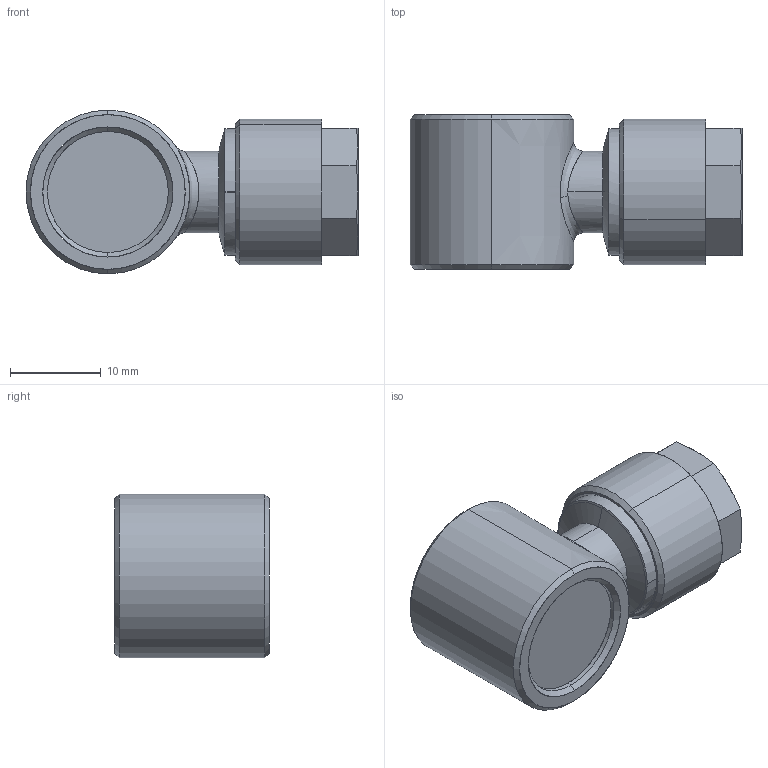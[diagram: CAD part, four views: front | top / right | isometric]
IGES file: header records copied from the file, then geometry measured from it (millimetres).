
Start section: SolidWorks IGES file using analytic representation for surfaces
Global section: file name: K:\Disegni Esecutivi\Serie 1000\Complessivi Serie 1000\1500\1500_iges\0150000016A.IGS; native system: SolidWorks 2008; preprocessor: SolidWorks 2008; author: cad05; date: 090213.163453; units: millimetre
Bounding box: 36.5 x 17 x 18 mm (x, y, z)
Surface area: 2629.4 mm2 (no closed solid volume)
Topology: 0 solids, 0 shells, 59 faces, 725 edges, 725 vertices
Faces by surface type: revolution 37, bspline 22
